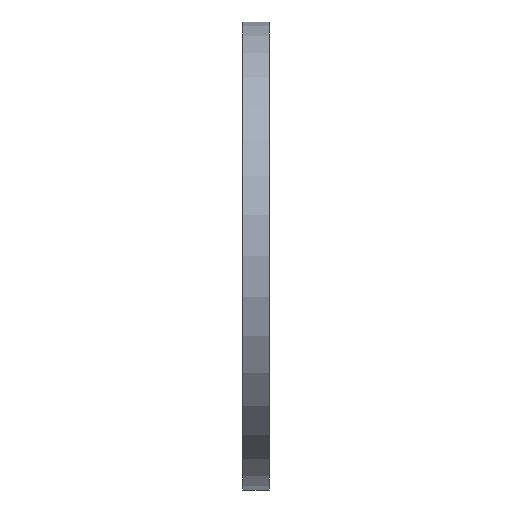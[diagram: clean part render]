
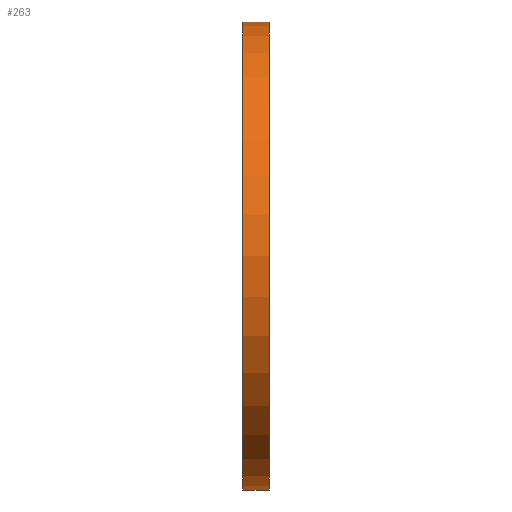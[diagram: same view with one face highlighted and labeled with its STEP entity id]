
A CAD part, left-side view. The second image highlights one B-rep face of the part: STEP entity #263.
In plain terms, the highlighted cylindrical face has radius 230 mm (diameter 460 mm), a partial arc.
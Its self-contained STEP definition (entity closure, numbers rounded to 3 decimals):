
#18 = DIRECTION ( 'NONE',  ( 0., 1., 0. ) ) ;
#68 = VERTEX_POINT ( 'NONE', #1172 ) ;
#104 = DIRECTION ( 'NONE',  ( 0., 1., 0. ) ) ;
#109 = EDGE_LOOP ( 'NONE', ( #573, #227, #1035, #957 ) ) ;
#136 = EDGE_CURVE ( 'NONE', #894, #891, #629, .T. ) ;
#155 = CIRCLE ( 'NONE', #1136, 230. ) ;
#158 = DIRECTION ( 'NONE',  ( 0., 0., 1. ) ) ;
#227 = ORIENTED_EDGE ( 'NONE', *, *, #476, .T. ) ;
#247 = CARTESIAN_POINT ( 'NONE',  ( 0., 0., 0. ) ) ;
#263 = ADVANCED_FACE ( 'NONE', ( #846 ), #387, .T. ) ;
#265 = DIRECTION ( 'NONE',  ( 0., 1., 0. ) ) ;
#269 = CARTESIAN_POINT ( 'NONE',  ( 0., 34.695, 0. ) ) ;
#271 = CARTESIAN_POINT ( 'NONE',  ( 0., 34.695, 230. ) ) ;
#349 = AXIS2_PLACEMENT_3D ( 'NONE', #247, #985, #158 ) ;
#353 = CARTESIAN_POINT ( 'NONE',  ( 0., 26., -230. ) ) ;
#382 = CARTESIAN_POINT ( 'NONE',  ( 0., 26., 0. ) ) ;
#387 = CYLINDRICAL_SURFACE ( 'NONE', #869, 230. ) ;
#390 = VERTEX_POINT ( 'NONE', #401 ) ;
#401 = CARTESIAN_POINT ( 'NONE',  ( 0., 0., 230. ) ) ;
#444 = LINE ( 'NONE', #271, #714 ) ;
#461 = EDGE_CURVE ( 'NONE', #390, #68, #444, .T. ) ;
#476 = EDGE_CURVE ( 'NONE', #894, #390, #675, .T. ) ;
#522 = EDGE_CURVE ( 'NONE', #891, #68, #155, .T. ) ;
#531 = CARTESIAN_POINT ( 'NONE',  ( 0., 34.695, -230. ) ) ;
#573 = ORIENTED_EDGE ( 'NONE', *, *, #136, .F. ) ;
#629 = LINE ( 'NONE', #531, #711 ) ;
#675 = CIRCLE ( 'NONE', #349, 230. ) ;
#711 = VECTOR ( 'NONE', #265, 1000. ) ;
#714 = VECTOR ( 'NONE', #972, 1000. ) ;
#750 = DIRECTION ( 'NONE',  ( 0., 0., 1. ) ) ;
#846 = FACE_OUTER_BOUND ( 'NONE', #109, .T. ) ;
#854 = CARTESIAN_POINT ( 'NONE',  ( 0., 0., -230. ) ) ;
#869 = AXIS2_PLACEMENT_3D ( 'NONE', #269, #104, #1116 ) ;
#891 = VERTEX_POINT ( 'NONE', #353 ) ;
#894 = VERTEX_POINT ( 'NONE', #854 ) ;
#957 = ORIENTED_EDGE ( 'NONE', *, *, #522, .F. ) ;
#972 = DIRECTION ( 'NONE',  ( 0., 1., 0. ) ) ;
#985 = DIRECTION ( 'NONE',  ( 0., 1., 0. ) ) ;
#1035 = ORIENTED_EDGE ( 'NONE', *, *, #461, .T. ) ;
#1116 = DIRECTION ( 'NONE',  ( 0., 0., 1. ) ) ;
#1136 = AXIS2_PLACEMENT_3D ( 'NONE', #382, #18, #750 ) ;
#1172 = CARTESIAN_POINT ( 'NONE',  ( 0., 26., 230. ) ) ;
